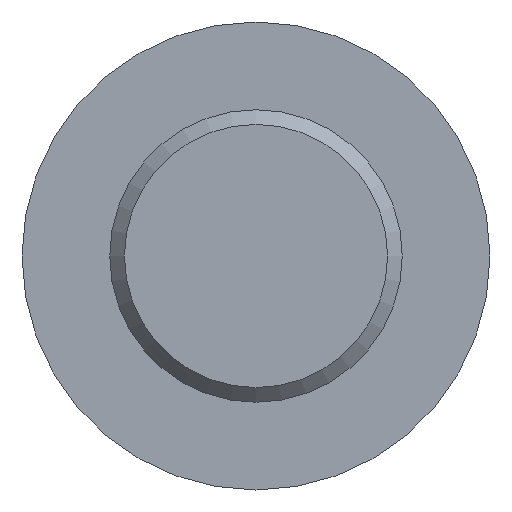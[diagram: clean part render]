
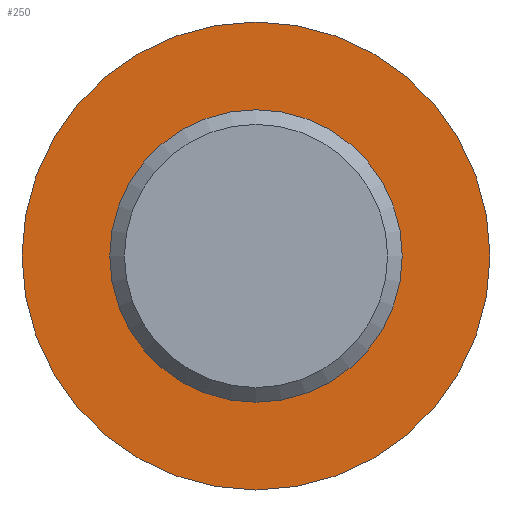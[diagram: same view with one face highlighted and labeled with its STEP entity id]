
A CAD part, front view. The second image highlights one B-rep face of the part: STEP entity #250.
In plain terms, the highlighted planar face has unit normal (0, -1, 0).
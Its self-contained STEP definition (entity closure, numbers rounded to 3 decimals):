
#17=FACE_BOUND('',#61,.T.);
#30=PLANE('',#303);
#43=FACE_OUTER_BOUND('',#60,.T.);
#60=EDGE_LOOP('',(#214,#215));
#61=EDGE_LOOP('',(#216,#217));
#100=CIRCLE('',#301,5.);
#101=CIRCLE('',#302,5.);
#102=CIRCLE('',#304,8.);
#103=CIRCLE('',#305,8.);
#126=VERTEX_POINT('',#456);
#127=VERTEX_POINT('',#457);
#128=VERTEX_POINT('',#462);
#129=VERTEX_POINT('',#463);
#157=EDGE_CURVE('',#126,#127,#100,.T.);
#158=EDGE_CURVE('',#127,#126,#101,.T.);
#160=EDGE_CURVE('',#128,#129,#102,.T.);
#161=EDGE_CURVE('',#129,#128,#103,.T.);
#214=ORIENTED_EDGE('',*,*,#160,.F.);
#215=ORIENTED_EDGE('',*,*,#161,.F.);
#216=ORIENTED_EDGE('',*,*,#157,.T.);
#217=ORIENTED_EDGE('',*,*,#158,.T.);
#250=ADVANCED_FACE('',(#43,#17),#30,.T.);
#301=AXIS2_PLACEMENT_3D('',#458,#375,#376);
#302=AXIS2_PLACEMENT_3D('',#459,#377,#378);
#303=AXIS2_PLACEMENT_3D('',#461,#380,#381);
#304=AXIS2_PLACEMENT_3D('',#464,#382,#383);
#305=AXIS2_PLACEMENT_3D('',#465,#384,#385);
#375=DIRECTION('center_axis',(0.,1.,0.));
#376=DIRECTION('ref_axis',(1.,0.,0.));
#377=DIRECTION('center_axis',(0.,1.,0.));
#378=DIRECTION('ref_axis',(1.,0.,0.));
#380=DIRECTION('center_axis',(0.,-1.,0.));
#381=DIRECTION('ref_axis',(0.,0.,-1.));
#382=DIRECTION('center_axis',(0.,1.,0.));
#383=DIRECTION('ref_axis',(1.,0.,0.));
#384=DIRECTION('center_axis',(0.,1.,0.));
#385=DIRECTION('ref_axis',(1.,0.,0.));
#456=CARTESIAN_POINT('',(0.,-239.,5.));
#457=CARTESIAN_POINT('',(0.,-239.,-5.));
#458=CARTESIAN_POINT('Origin',(0.,-239.,0.));
#459=CARTESIAN_POINT('Origin',(0.,-239.,0.));
#461=CARTESIAN_POINT('Origin',(0.,-239.,8.));
#462=CARTESIAN_POINT('',(0.,-239.,8.));
#463=CARTESIAN_POINT('',(0.,-239.,-8.));
#464=CARTESIAN_POINT('Origin',(0.,-239.,0.));
#465=CARTESIAN_POINT('Origin',(0.,-239.,0.));
